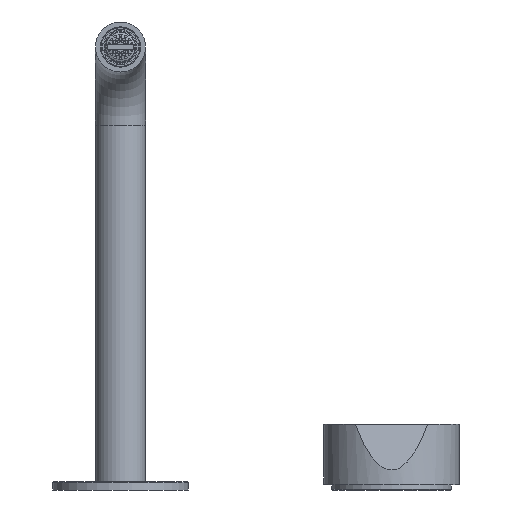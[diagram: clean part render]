
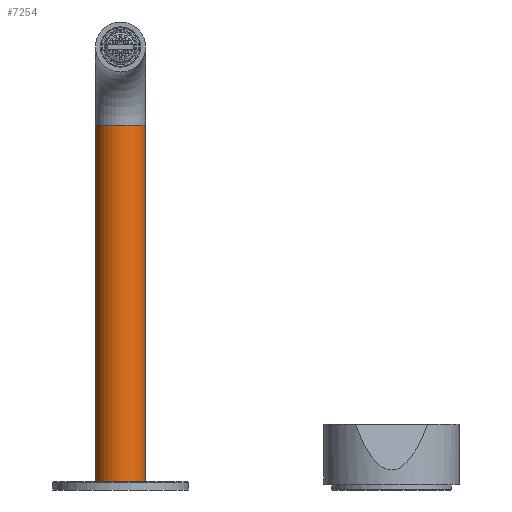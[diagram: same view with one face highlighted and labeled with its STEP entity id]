
A CAD part, front view. The second image highlights one B-rep face of the part: STEP entity #7254.
In plain terms, the highlighted cylindrical face has radius 12 mm (diameter 24 mm), a partial arc.
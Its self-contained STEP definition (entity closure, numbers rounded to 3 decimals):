
#1994=CARTESIAN_POINT('',(0.,0.,212.025));
#1995=DIRECTION('',(0.,0.,-1.));
#1996=DIRECTION('',(1.,0.,0.));
#1997=AXIS2_PLACEMENT_3D('',#1994,#1995,#1996);
#2019=DIRECTION('',(0.,0.,-1.));
#2020=VECTOR('',#2019,173.);
#2021=CARTESIAN_POINT('',(12.,0.,212.025));
#2022=LINE('',#2021,#2020);
#2147=CARTESIAN_POINT('',(0.,0.,39.025));
#2148=DIRECTION('',(0.,0.,-1.));
#2149=DIRECTION('',(1.,0.,0.));
#2150=AXIS2_PLACEMENT_3D('',#2147,#2148,#2149);
#2152=DIRECTION('',(0.,0.,-1.));
#2153=VECTOR('',#2152,173.);
#2154=CARTESIAN_POINT('',(-12.,0.,212.025));
#2155=LINE('',#2154,#2153);
#4615=CARTESIAN_POINT('',(12.,0.,212.025));
#4617=VERTEX_POINT('',#4615);
#4619=CARTESIAN_POINT('',(-12.,0.,212.025));
#4620=VERTEX_POINT('',#4619);
#5588=CARTESIAN_POINT('',(-12.,0.,39.025));
#5589=CARTESIAN_POINT('',(12.,0.,39.025));
#5590=VERTEX_POINT('',#5588);
#5591=VERTEX_POINT('',#5589);
#7243=CARTESIAN_POINT('',(0.,0.,37.025));
#7244=DIRECTION('',(0.,0.,-1.));
#7245=DIRECTION('',(-1.,0.,0.));
#7246=AXIS2_PLACEMENT_3D('',#7243,#7244,#7245);
#7247=CYLINDRICAL_SURFACE('',#7246,12.);
#7248=ORIENTED_EDGE('',*,*,#6965,.T.);
#7249=ORIENTED_EDGE('',*,*,#6941,.F.);
#7250=ORIENTED_EDGE('',*,*,#6897,.F.);
#7251=ORIENTED_EDGE('',*,*,#6938,.T.);
#7252=EDGE_LOOP('',(#7248,#7249,#7250,#7251));
#7253=FACE_OUTER_BOUND('',#7252,.F.);
#1998=CIRCLE('',#1997,12.);
#2151=CIRCLE('',#2150,12.);
#6897=EDGE_CURVE('',#4617,#4620,#1998,.T.);
#6938=EDGE_CURVE('',#4617,#5591,#2022,.T.);
#6941=EDGE_CURVE('',#4620,#5590,#2155,.T.);
#6965=EDGE_CURVE('',#5591,#5590,#2151,.T.);
#7254=ADVANCED_FACE('',(#7253),#7247,.T.);
